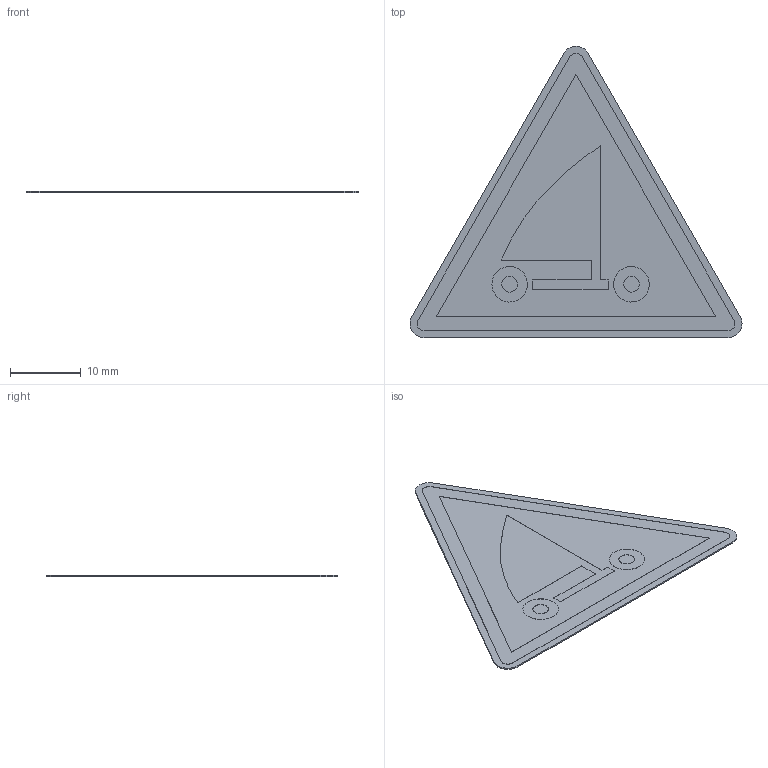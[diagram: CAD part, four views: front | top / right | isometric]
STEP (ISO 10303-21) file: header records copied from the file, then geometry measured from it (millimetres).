
FILE_DESCRIPTION (( 'STEP AP214' ), '1' );
FILE_NAME ('W059_Warnung vor Strandseglern.STEP', '2022-03-05T05:25:50', ( '' ), ( '' ), 'SwSTEP 2.0', 'SolidWorks 2021', '' );
FILE_SCHEMA (( 'AUTOMOTIVE_DESIGN' ));
Length unit declared in the file: millimetre
Products named in the file (1): W059_Warnung vor Strandseglern
Bounding box: 47.07 x 41.3 x 0.22 mm (x, y, z)
Volume: 223.8 mm3; surface area: 2184.6 mm2
Topology: 1 solids, 1 shells, 64 faces, 165 edges, 110 vertices
Faces by surface type: plane 42, cylinder 22
Entity records: 2559 total; most frequent: CARTESIAN_POINT 340, DIRECTION 339, ORIENTED_EDGE 330, EDGE_CURVE 165, VECTOR 121, LINE 121, VERTEX_POINT 110, AXIS2_PLACEMENT_3D 109
